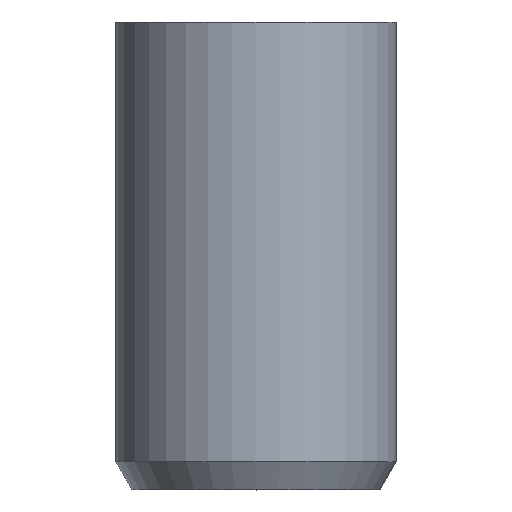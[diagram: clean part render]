
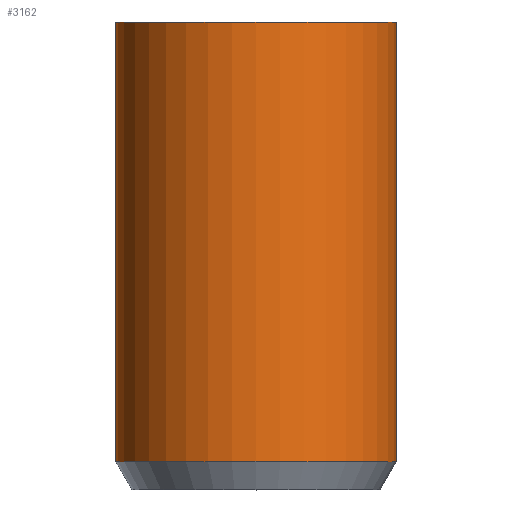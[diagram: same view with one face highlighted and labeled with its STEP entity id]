
A CAD part, top view. The second image highlights one B-rep face of the part: STEP entity #3162.
In plain terms, the highlighted cylindrical face has radius 3 mm (diameter 6 mm), a full revolution.
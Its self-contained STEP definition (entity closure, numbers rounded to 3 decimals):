
#41 = VERTEX_POINT ( 'NONE', #3042 ) ;
#258 = AXIS2_PLACEMENT_3D ( 'NONE', #2916, #4730, #3644 ) ;
#359 = DIRECTION ( 'NONE',  ( 1., 0., 0. ) ) ;
#503 = VERTEX_POINT ( 'NONE', #2668 ) ;
#653 = AXIS2_PLACEMENT_3D ( 'NONE', #2169, #4747, #2883 ) ;
#1060 = DIRECTION ( 'NONE',  ( 0., -1., 0. ) ) ;
#1114 = FACE_OUTER_BOUND ( 'NONE', #3574, .T. ) ;
#1137 = EDGE_CURVE ( 'NONE', #503, #503, #4239, .T. ) ;
#1409 = AXIS2_PLACEMENT_3D ( 'NONE', #3278, #1060, #359 ) ;
#1785 = ORIENTED_EDGE ( 'NONE', *, *, #2681, .T. ) ;
#1956 = EDGE_LOOP ( 'NONE', ( #1785 ) ) ;
#2169 = CARTESIAN_POINT ( 'NONE',  ( 0., 0.6, 0. ) ) ;
#2575 = CYLINDRICAL_SURFACE ( 'NONE', #258, 3. ) ;
#2668 = CARTESIAN_POINT ( 'NONE',  ( 3., 10., 0. ) ) ;
#2681 = EDGE_CURVE ( 'NONE', #41, #41, #3860, .T. ) ;
#2883 = DIRECTION ( 'NONE',  ( -1., 0., 0. ) ) ;
#2916 = CARTESIAN_POINT ( 'NONE',  ( 0., 0., 0. ) ) ;
#3042 = CARTESIAN_POINT ( 'NONE',  ( -3., 0.6, 0. ) ) ;
#3162 = ADVANCED_FACE ( 'NONE', ( #4146, #1114 ), #2575, .T. ) ;
#3278 = CARTESIAN_POINT ( 'NONE',  ( 0., 10., 0. ) ) ;
#3574 = EDGE_LOOP ( 'NONE', ( #3718 ) ) ;
#3644 = DIRECTION ( 'NONE',  ( 1., 0., 0. ) ) ;
#3718 = ORIENTED_EDGE ( 'NONE', *, *, #1137, .T. ) ;
#3860 = CIRCLE ( 'NONE', #653, 3. ) ;
#4146 = FACE_OUTER_BOUND ( 'NONE', #1956, .T. ) ;
#4239 = CIRCLE ( 'NONE', #1409, 3. ) ;
#4730 = DIRECTION ( 'NONE',  ( 0., -1., 0. ) ) ;
#4747 = DIRECTION ( 'NONE',  ( 0., 1., 0. ) ) ;
